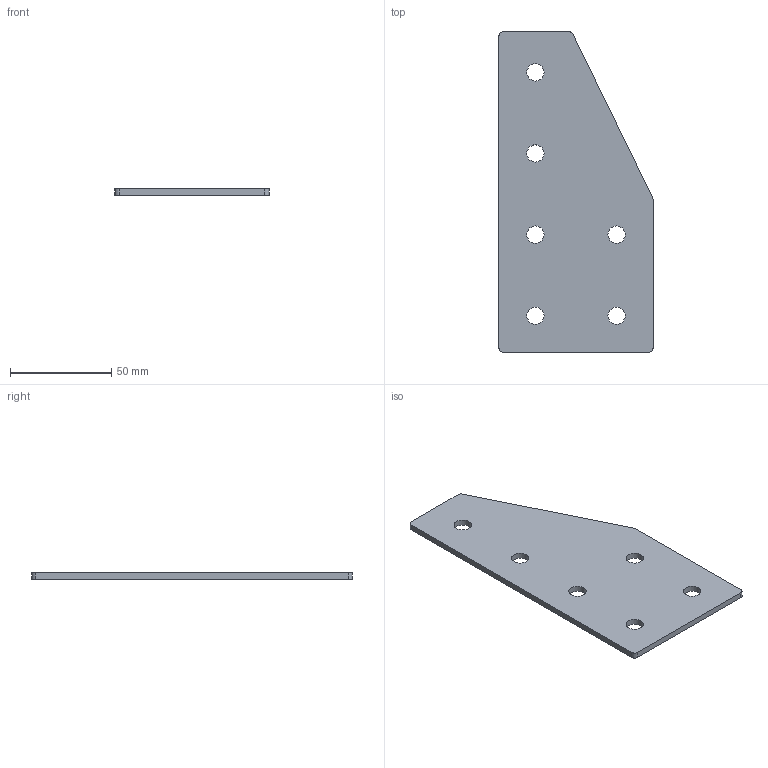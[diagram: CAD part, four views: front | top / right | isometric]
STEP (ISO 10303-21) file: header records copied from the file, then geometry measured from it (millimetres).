
FILE_DESCRIPTION(/* description */ ('Piastra di giunzione profilo doppia/singola cava laterale'),/* implementation_level */ '2;1');
FILE_NAME(/* name */ 'C:\omnitec\Desktop\Connessone PCB\JPL40-80.stp',/* time_stamp */ '2021-02-19T10:08:13+01:00',/* author */ ('omnitec'),/* organization */ ('Microsoft'),/* preprocessor_version */ 'ST-DEVELOPER v18.1',/* originating_system */ 'Autodesk Inventor 2021',/* authorisation */ '');
FILE_SCHEMA (('AUTOMOTIVE_DESIGN { 1 0 10303 214 3 1 1 }'));
Length unit declared in the file: millimetre
Products named in the file (1): JPL40-80
Bounding box: 76 x 158 x 3 mm (x, y, z)
Volume: 30074 mm3; surface area: 21833.1 mm2
Topology: 1 solids, 1 shells, 18 faces, 48 edges, 32 vertices
Faces by surface type: cylinder 11, plane 7
Full cylindrical faces by diameter (mm): 8.5 x6
Entity records: 639 total; most frequent: DIRECTION 108, CARTESIAN_POINT 99, ORIENTED_EDGE 96, EDGE_CURVE 48, AXIS2_PLACEMENT_3D 41, VERTEX_POINT 32, EDGE_LOOP 30, LINE 26
